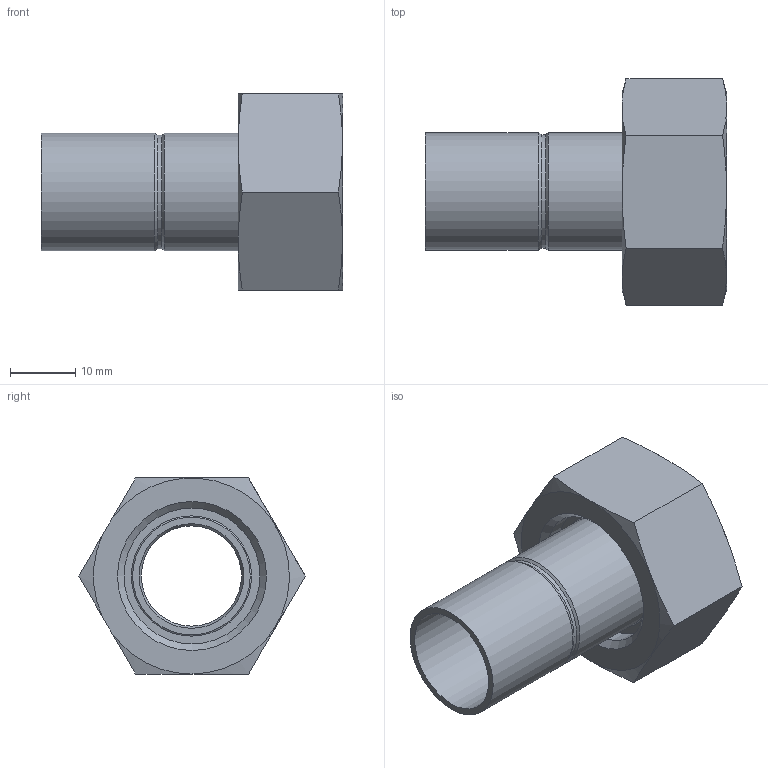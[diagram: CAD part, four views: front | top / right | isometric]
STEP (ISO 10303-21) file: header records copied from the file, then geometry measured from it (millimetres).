
FILE_DESCRIPTION((''),'2;1');
FILE_NAME('G:\SANHA-TERNAT\Technik\Management\Bouwmaten\z-maattekeningen 3D\5000\5359G\15359G1634.stp','2008-05-27T15:16:53',('vdvijverd'),(''),'Autodesk Inventor 2009','Autodesk Inventor 2009','');
FILE_SCHEMA(('AUTOMOTIVE_DESIGN { 1 0 10303 214 1 1 1 1 }'));
Length unit declared in the file: millimetre
Products named in the file (4): 15359G1634; 5359G1634; centel_34; BB1A006_34
Assembly tree (3 placements, depth 2):
  15359G1634
    5359G1634
    centel_34
    BB1A006_34
Bounding box: 46.1 x 34.64 x 30 mm (x, y, z)
Volume: 7903.7 mm3; surface area: 8404.6 mm2
Topology: 3 solids, 3 shells, 40 faces, 85 edges, 53 vertices
Faces by surface type: plane 14, cone 12, cylinder 10, bspline 2, torus 2
Full cylindrical faces by diameter (mm): 15.337 x1, 16 x2, 17.337 x1, 18 x2, 20 x1, 20.8 x1, 23.8 x1, 24.117 x1
Entity records: 1158 total; most frequent: CARTESIAN_POINT 271, DIRECTION 172, ORIENTED_EDGE 130, AXIS2_PLACEMENT_3D 80, EDGE_LOOP 68, EDGE_CURVE 65, VERTEX_POINT 53, FACE_OUTER_BOUND 40
